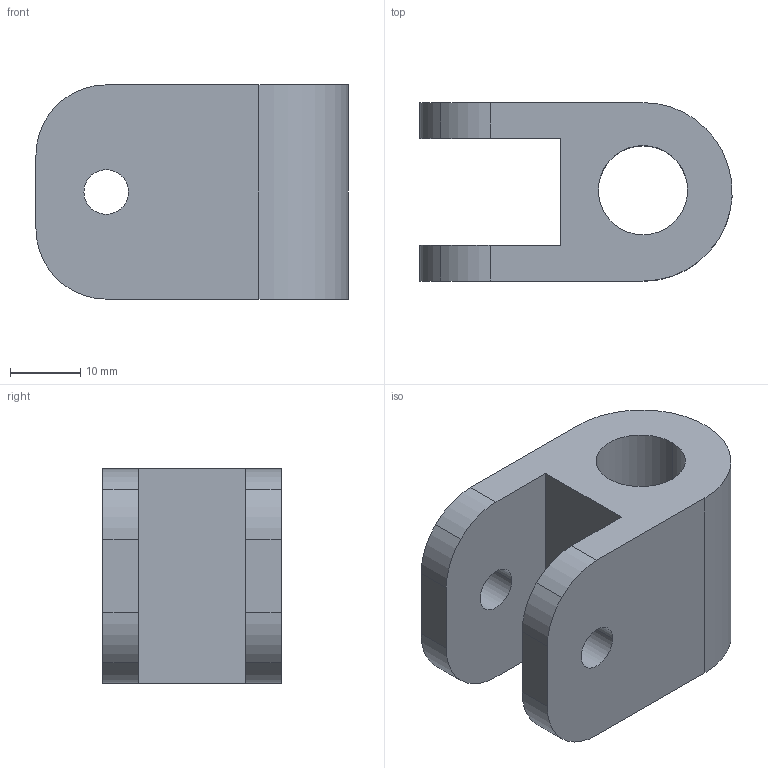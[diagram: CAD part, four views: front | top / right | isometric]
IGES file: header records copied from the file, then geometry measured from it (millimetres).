
Global section: file name: C:\Documents and Settings\Administrator\Desktop\Transfer Temp\hitchbracket.igs; native system: AutoDesk Inventor R2.0 ; preprocessor: AutoDesk Inventor Iges Exporter R2.0; author: No Author specified; organization: No Organization specified; date: 20011227.204557; units: millimetre
Bounding box: 44.43 x 25.4 x 30.5 mm (x, y, z)
Surface area: 7439 mm2 (no closed solid volume)
Topology: 0 solids, 0 shells, 25 faces, 138 edges, 138 vertices
Faces by surface type: bspline 13, revolution 12
